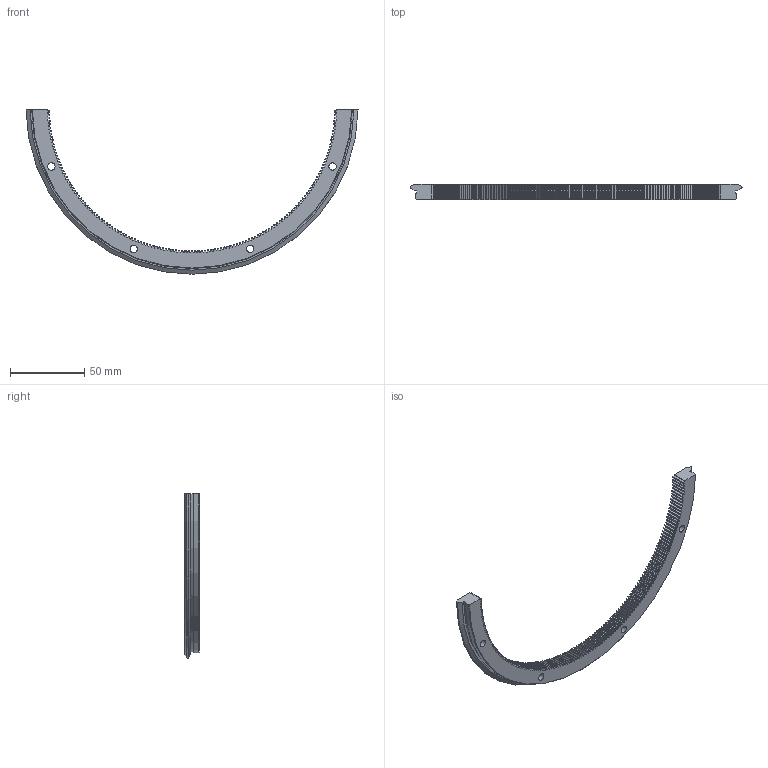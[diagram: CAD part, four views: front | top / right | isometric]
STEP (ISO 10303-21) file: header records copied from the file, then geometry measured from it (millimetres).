
FILE_DESCRIPTION(('STEP AP203'),'1');
FILE_NAME('REV 223 R180 Q.stp','2022-07-19T05:00:50',(' '),(' '),'Spatial InterOp 3D',' ',' ');
FILE_SCHEMA(('CONFIG_CONTROL_DESIGN'));
Length unit declared in the file: millimetre
Products named in the file (1): REV 223 R180 Q
Bounding box: 223.38 x 10 x 110.69 mm (x, y, z)
Volume: 38338.6 mm3; surface area: 19228.1 mm2
Topology: 1 solids, 1 shells, 710 faces, 2116 edges, 1412 vertices
Faces by surface type: cylinder 285, plane 284, cone 140, torus 1
Full cylindrical faces by diameter (mm): 5 x4, 8 x4
Entity records: 24338 total; most frequent: CARTESIAN_POINT 5079, ORIENTED_EDGE 4208, DIRECTION 3956, EDGE_CURVE 2104, AXIS2_PLACEMENT_3D 1423, VERTEX_POINT 1408, LINE 1110, VECTOR 1110
